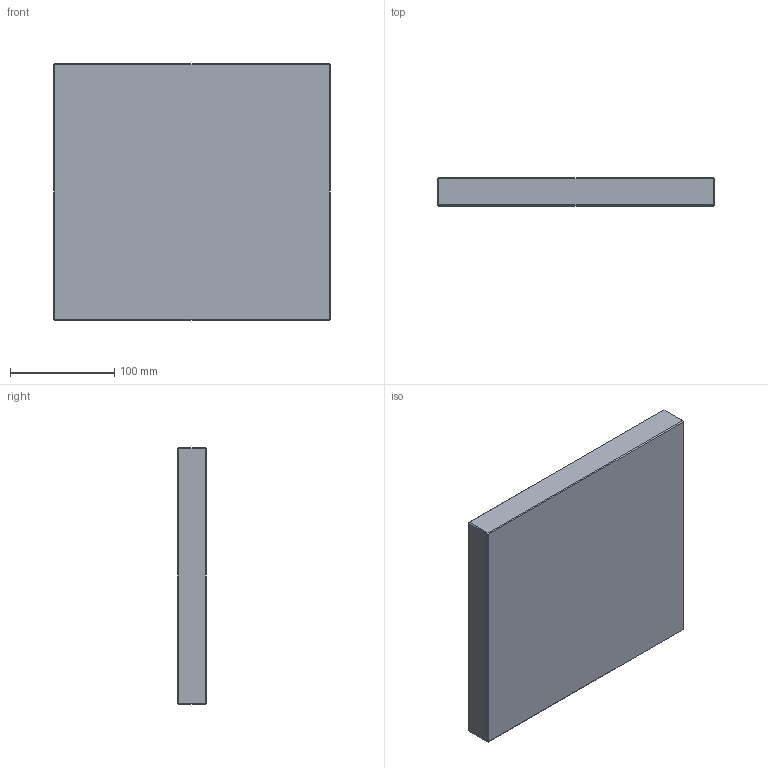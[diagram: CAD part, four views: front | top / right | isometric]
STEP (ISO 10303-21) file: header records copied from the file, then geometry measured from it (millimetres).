
FILE_DESCRIPTION (( 'STEP AP214' ), '1' );
FILE_NAME ('PBA-P-216x246x27.STEP', '2020-03-11T10:04:37', ( 'August' ), ( '' ), 'SwSTEP 2.0', 'SolidWorks 2018', '' );
FILE_SCHEMA (( 'AUTOMOTIVE_DESIGN' ));
Length unit declared in the file: millimetre
Products named in the file (1): PBA-P-216x246x27
Bounding box: 266 x 27 x 246 mm (x, y, z)
Volume: 1765699.3 mm3; surface area: 157254 mm2
Topology: 1 solids, 1 shells, 26 faces, 48 edges, 24 vertices
Faces by surface type: plane 26
Entity records: 634 total; most frequent: DIRECTION 102, CARTESIAN_POINT 99, ORIENTED_EDGE 96, EDGE_CURVE 48, VECTOR 48, LINE 48, AXIS2_PLACEMENT_3D 27, PLANE 26
